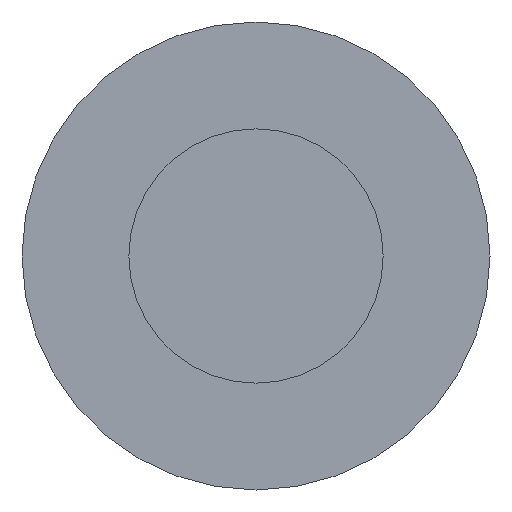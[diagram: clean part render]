
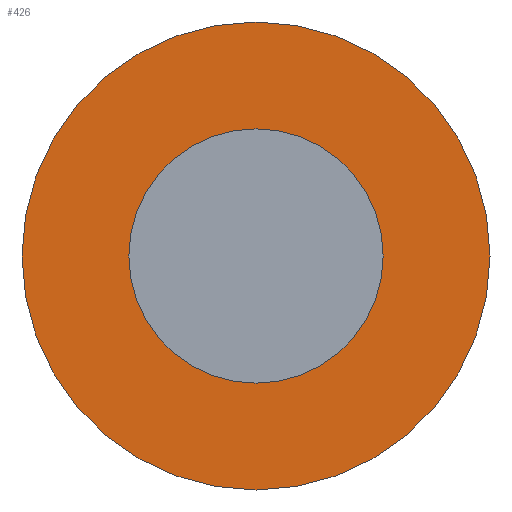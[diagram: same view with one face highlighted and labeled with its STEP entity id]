
A CAD part, front view. The second image highlights one B-rep face of the part: STEP entity #426.
In plain terms, the highlighted planar face has unit normal (0, -1, 0).
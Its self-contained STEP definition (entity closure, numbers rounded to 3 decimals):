
#8 = EDGE_CURVE ( 'NONE', #158, #143, #145, .T. ) ;
#15 = EDGE_CURVE ( 'NONE', #140, #171, #223, .T. ) ;
#22 = AXIS2_PLACEMENT_3D ( 'NONE', #396, #399, #395 ) ;
#27 = AXIS2_PLACEMENT_3D ( 'NONE', #403, #400, #406 ) ;
#30 = EDGE_CURVE ( 'NONE', #171, #140, #180, .T. ) ;
#41 = EDGE_CURVE ( 'NONE', #143, #158, #201, .T. ) ;
#52 = AXIS2_PLACEMENT_3D ( 'NONE', #270, #274, #277 ) ;
#54 = AXIS2_PLACEMENT_3D ( 'NONE', #322, #297, #338 ) ;
#69 = AXIS2_PLACEMENT_3D ( 'NONE', #360, #372, #357 ) ;
#77 = EDGE_LOOP ( 'NONE', ( #83, #117 ) ) ;
#83 = ORIENTED_EDGE ( 'NONE', *, *, #41, .F. ) ;
#91 = EDGE_LOOP ( 'NONE', ( #97, #121 ) ) ;
#97 = ORIENTED_EDGE ( 'NONE', *, *, #30, .T. ) ;
#117 = ORIENTED_EDGE ( 'NONE', *, *, #8, .F. ) ;
#121 = ORIENTED_EDGE ( 'NONE', *, *, #15, .T. ) ;
#140 = VERTEX_POINT ( 'NONE', #327 ) ;
#143 = VERTEX_POINT ( 'NONE', #308 ) ;
#145 = CIRCLE ( 'NONE', #22, 1.25 ) ;
#158 = VERTEX_POINT ( 'NONE', #326 ) ;
#171 = VERTEX_POINT ( 'NONE', #316 ) ;
#180 = CIRCLE ( 'NONE', #52, 2.3 ) ;
#201 = CIRCLE ( 'NONE', #54, 1.25 ) ;
#223 = CIRCLE ( 'NONE', #27, 2.3 ) ;
#242 = FACE_BOUND ( 'NONE', #77, .T. ) ;
#245 = FACE_OUTER_BOUND ( 'NONE', #91, .T. ) ;
#270 = CARTESIAN_POINT ( 'NONE',  ( 0., 6., 0. ) ) ;
#274 = DIRECTION ( 'NONE',  ( 0., -1., 0. ) ) ;
#277 = DIRECTION ( 'NONE',  ( 0., 0., -1. ) ) ;
#297 = DIRECTION ( 'NONE',  ( 0., -1., 0. ) ) ;
#308 = CARTESIAN_POINT ( 'NONE',  ( 0., 6., -1.25 ) ) ;
#316 = CARTESIAN_POINT ( 'NONE',  ( 0., 6., -2.3 ) ) ;
#322 = CARTESIAN_POINT ( 'NONE',  ( 0., 6., 0. ) ) ;
#326 = CARTESIAN_POINT ( 'NONE',  ( 0., 6., 1.25 ) ) ;
#327 = CARTESIAN_POINT ( 'NONE',  ( 0., 6., 2.3 ) ) ;
#338 = DIRECTION ( 'NONE',  ( 0., 0., -1. ) ) ;
#356 = PLANE ( 'NONE',  #69 ) ;
#357 = DIRECTION ( 'NONE',  ( 0., 0., 1. ) ) ;
#360 = CARTESIAN_POINT ( 'NONE',  ( -1.25, 6., 0. ) ) ;
#372 = DIRECTION ( 'NONE',  ( 0., 1., 0. ) ) ;
#395 = DIRECTION ( 'NONE',  ( 0., 0., -1. ) ) ;
#396 = CARTESIAN_POINT ( 'NONE',  ( 0., 6., 0. ) ) ;
#399 = DIRECTION ( 'NONE',  ( 0., -1., 0. ) ) ;
#400 = DIRECTION ( 'NONE',  ( 0., -1., 0. ) ) ;
#403 = CARTESIAN_POINT ( 'NONE',  ( 0., 6., 0. ) ) ;
#406 = DIRECTION ( 'NONE',  ( 0., 0., -1. ) ) ;
#426 = ADVANCED_FACE ( 'NONE', ( #242, #245 ), #356, .F. ) ;
